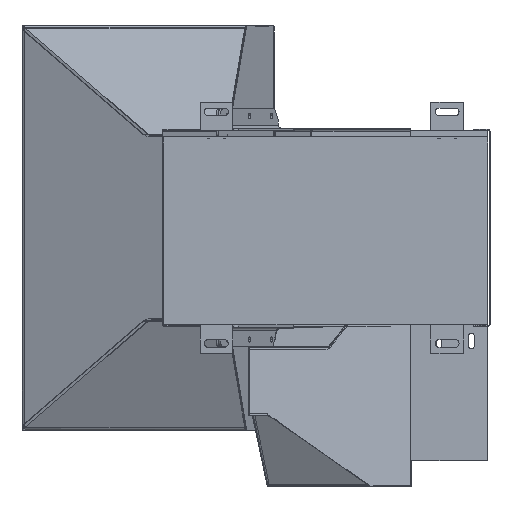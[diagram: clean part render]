
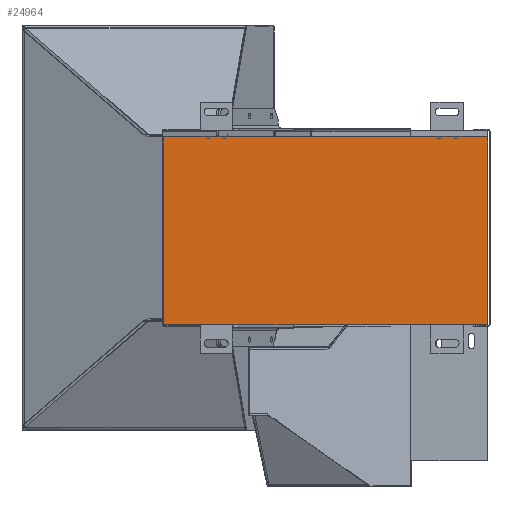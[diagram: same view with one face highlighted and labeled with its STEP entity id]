
A CAD part, front view. The second image highlights one B-rep face of the part: STEP entity #24964.
In plain terms, the highlighted planar face has unit normal (0, -1, 0).
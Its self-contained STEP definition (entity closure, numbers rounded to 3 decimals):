
#123 = CARTESIAN_POINT ( 'NONE',  ( -250., -210., -784.107 ) ) ;
#577 = EDGE_LOOP ( 'NONE', ( #6692, #17168, #25056, #22626 ) ) ;
#1464 = VERTEX_POINT ( 'NONE', #7143 ) ;
#1642 = DIRECTION ( 'NONE',  ( 0., 1., 0. ) ) ;
#1930 = EDGE_CURVE ( 'NONE', #1464, #5490, #15868, .T. ) ;
#3759 = CARTESIAN_POINT ( 'NONE',  ( 150., -210., -784.107 ) ) ;
#4784 = CARTESIAN_POINT ( 'NONE',  ( -250., -210., 112. ) ) ;
#5490 = VERTEX_POINT ( 'NONE', #12845 ) ;
#5933 = DIRECTION ( 'NONE',  ( 1., 0., 0. ) ) ;
#6157 = VECTOR ( 'NONE', #17837, 1000. ) ;
#6692 = ORIENTED_EDGE ( 'NONE', *, *, #21523, .T. ) ;
#7143 = CARTESIAN_POINT ( 'NONE',  ( -250., -210., -120. ) ) ;
#9410 = CARTESIAN_POINT ( 'NONE',  ( 150., -210., -120. ) ) ;
#9866 = DIRECTION ( 'NONE',  ( 0., 0., 1. ) ) ;
#9988 = CARTESIAN_POINT ( 'NONE',  ( 150., -210., 112. ) ) ;
#11135 = VERTEX_POINT ( 'NONE', #19659 ) ;
#11784 = EDGE_CURVE ( 'NONE', #5490, #11135, #19189, .T. ) ;
#12080 = LINE ( 'NONE', #123, #24257 ) ;
#12845 = CARTESIAN_POINT ( 'NONE',  ( 150., -210., -120. ) ) ;
#13355 = CARTESIAN_POINT ( 'NONE',  ( 150., -210., -784.107 ) ) ;
#13806 = DIRECTION ( 'NONE',  ( 0., 0., 1. ) ) ;
#14983 = VECTOR ( 'NONE', #5933, 1000. ) ;
#15868 = LINE ( 'NONE', #9410, #14983 ) ;
#17168 = ORIENTED_EDGE ( 'NONE', *, *, #22389, .F. ) ;
#17837 = DIRECTION ( 'NONE',  ( -1., 0., 0. ) ) ;
#19189 = LINE ( 'NONE', #3759, #19537 ) ;
#19252 = PLANE ( 'NONE',  #25200 ) ;
#19537 = VECTOR ( 'NONE', #13806, 1000. ) ;
#19659 = CARTESIAN_POINT ( 'NONE',  ( 150., -210., 112. ) ) ;
#19757 = LINE ( 'NONE', #9988, #6157 ) ;
#19917 = DIRECTION ( 'NONE',  ( 0., 0., 1. ) ) ;
#20246 = VERTEX_POINT ( 'NONE', #4784 ) ;
#21523 = EDGE_CURVE ( 'NONE', #11135, #20246, #19757, .T. ) ;
#22389 = EDGE_CURVE ( 'NONE', #1464, #20246, #12080, .T. ) ;
#22626 = ORIENTED_EDGE ( 'NONE', *, *, #11784, .T. ) ;
#23494 = FACE_OUTER_BOUND ( 'NONE', #577, .T. ) ;
#24257 = VECTOR ( 'NONE', #19917, 1000. ) ;
#24964 = ADVANCED_FACE ( 'NONE', ( #23494 ), #19252, .F. ) ;
#25056 = ORIENTED_EDGE ( 'NONE', *, *, #1930, .T. ) ;
#25200 = AXIS2_PLACEMENT_3D ( 'NONE', #13355, #1642, #9866 ) ;
